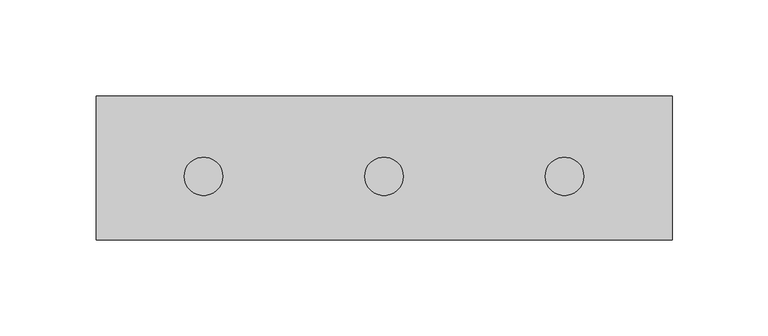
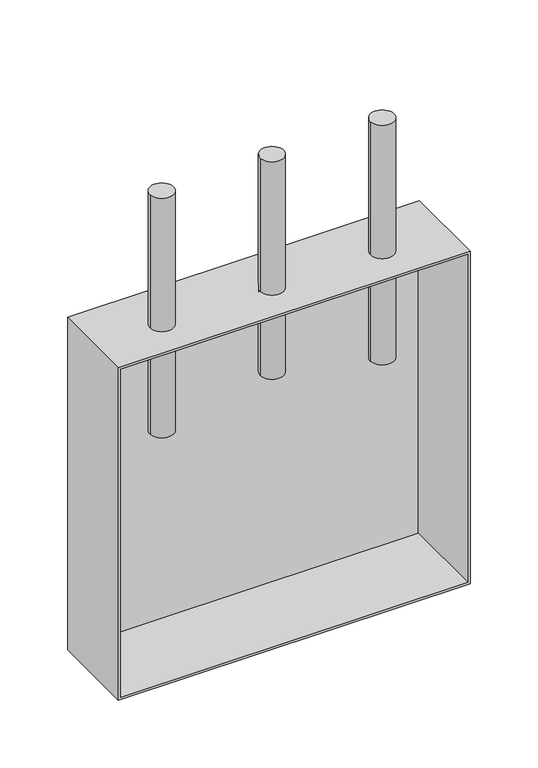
"""IFC4 building model written with IfcOpenShell, lengths in millimetres: flow terminal geometry, Plumbing Fixtures_Thermostatic Mixing Valve_Thornthwaite_Rada 215dk TMV in 300mm box : Rada 215dk TMV in an exposed box with Lid - 40861EBG300."""

from ifc_helpers import new_model, si_unit, point, frame, frame_2d, origin, place, context, project, spatial, circle_curve, trimmed, segment, composite_curve, outline, extrude, faceted_brep, source, transform, mapped, element, save


def flow_terminal_5358b9b5(model_context):
    return source(origin(), model_context, "Body", "SolidModel", [
        extrude(outline(composite_curve([segment(trimmed(circle_curve(frame_2d((-94.0, -4.5)), 10.0), [point((-84.0, -4.5))], [point((-104.0, -4.5))], False, "CARTESIAN"), True, "CONTINUOUS"), segment(trimmed(circle_curve(frame_2d((-94.0, -4.5)), 10.0), [point((-104.0, -4.5))], [point((-84.0, -4.5))], False, "CARTESIAN"), True, "CONTINUOUS")], self_intersect=False)), frame((0.0, 0.0, 724.0), z_axis=(0.0, 0.0, 1.0), x_axis=(1.0, 0.0, 0.0)), (0.0, 0.0, 1.0), 216.0),
        extrude(outline(composite_curve([segment(trimmed(circle_curve(frame_2d((94.0, -4.5)), 10.0), [point((104.0, -4.5))], [point((84.0, -4.5))], False, "CARTESIAN"), True, "CONTINUOUS"), segment(trimmed(circle_curve(frame_2d((94.0, -4.5)), 10.0), [point((84.0, -4.5))], [point((104.0, -4.5))], False, "CARTESIAN"), True, "CONTINUOUS")], self_intersect=False)), frame((0.0, 0.0, 724.0), z_axis=(0.0, 0.0, 1.0), x_axis=(1.0, 0.0, 0.0)), (0.0, 0.0, 1.0), 216.0),
        extrude(outline(composite_curve([segment(trimmed(circle_curve(frame_2d((0.0, -4.5)), 10.0), [point((10.0, -4.5))], [point((-10.0, -4.5))], False, "CARTESIAN"), True, "CONTINUOUS"), segment(trimmed(circle_curve(frame_2d((0.0, -4.5)), 10.0), [point((-10.0, -4.5))], [point((10.0, -4.5))], False, "CARTESIAN"), True, "CONTINUOUS")], self_intersect=False)), frame((0.0, 0.0, 744.0), z_axis=(0.0, 0.0, 1.0), x_axis=(1.0, 0.0, 0.0)), (0.0, 0.0, 1.0), 196.0),
        faceted_brep([(-150.0, -37.5, 520.0), (150.0, -37.5, 520.0), (150.0, -37.5, 820.0), (-150.0, -37.5, 820.0), (-148.0, -37.5, 818.0), (148.0, -37.5, 818.0), (148.0, -37.5, 522.0), (-148.0, -37.5, 522.0), (-150.0, 37.5, 520.0), (-150.0, 37.5, 820.0), (150.0, 37.5, 820.0), (150.0, 37.5, 520.0), (-148.0, 35.5, 522.0), (-148.0, 35.5, 818.0), (148.0, 35.5, 522.0), (148.0, 35.5, 818.0)], [[[0, 1, 2, 3], [4, 5, 6, 7]], [[8, 9, 10, 11]], [[0, 3, 9, 8]], [[3, 2, 10, 9]], [[2, 1, 11, 10]], [[1, 0, 8, 11]], [[4, 7, 12, 13]], [[7, 6, 14, 12]], [[6, 5, 15, 14]], [[5, 4, 13, 15]], [[13, 12, 14, 15]]]),
    ])


if __name__ == "__main__":
    model = new_model("IFC4")
    model_context = context("Model", 3, world=origin())
    ifc_project = project(units=[si_unit("LENGTHUNIT", "METRE", prefix="MILLI")], contexts=[model_context])
    site = spatial("IfcSite", under=ifc_project)
    building = spatial("IfcBuilding", under=site)
    placement = place(None, origin())
    flow_terminal_shape = flow_terminal_5358b9b5(model_context)
    element("IfcFlowTerminal", 1, ObjectType="Plumbing Fixtures_Thermostatic Mixing Valve_Thornthwaite_Rada 215dk TMV in 300mm box : Rada 215dk TMV in an exposed box with Lid - 40861EBG300", at=placement, inside=building, context=model_context, shape_type="MappedRepresentation", body=[
        mapped(flow_terminal_shape, transform((0.0, 0.0, 0.0), x_axis=(1.0, 0.0, 0.0), y_axis=(0.0, 1.0, 0.0), z_axis=(0.0, 0.0, 1.0))),
    ])
    save(model, "model.ifc")
